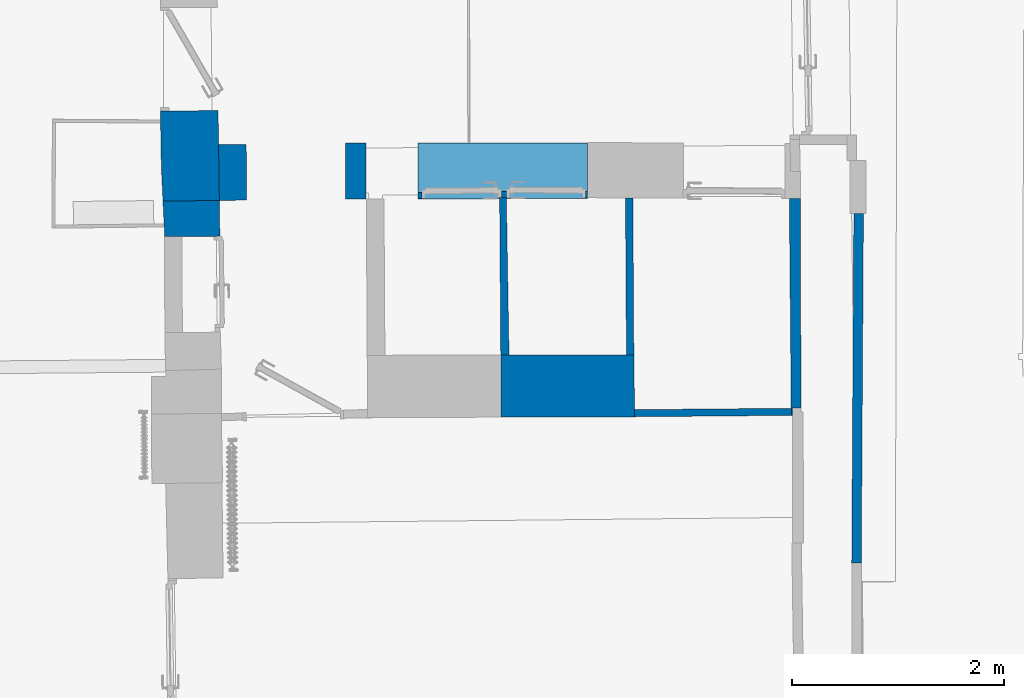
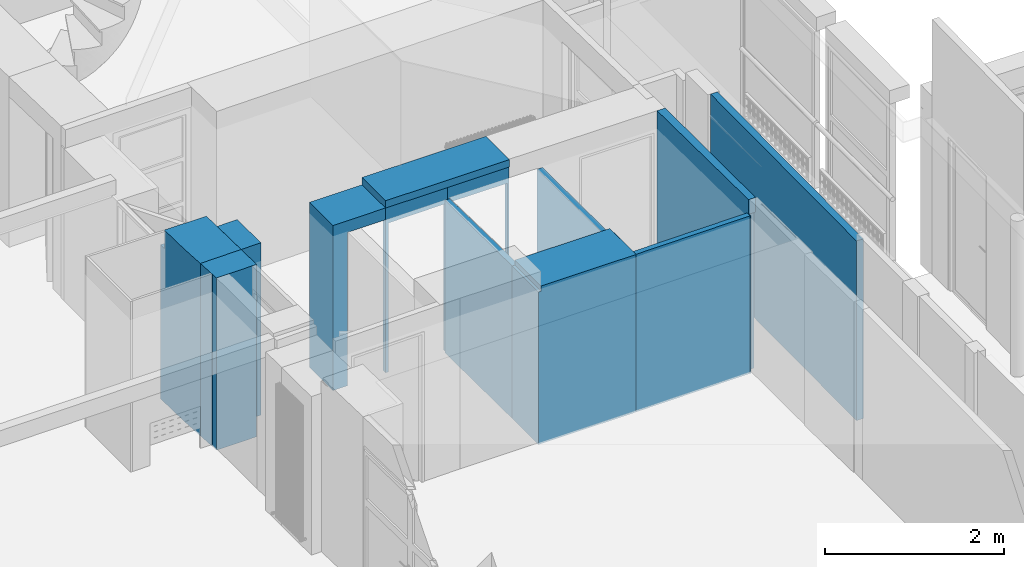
# One storey, part 16 of 72: 13 walls, 2 openings.
"""IFC2X3 building model written with IfcOpenShell, lengths in centimetres."""

import ifcopenshell
import ifcopenshell.guid

model = None  # the IFC model being written
_history = None  # IfcOwnerHistory: only IFC2X3 demands one
_inside = {}  # id of a spatial element -> (the spatial element, [elements in it])
_under = {}  # id of a project, library or spatial element -> (it, [spatial elements below it])
_declared = {}  # id of a project -> (the project, [libraries it declares])
_typed = {}  # id of a type object -> (the type object, [elements of that type])
_made_of = {}  # id of a material, layer set ... -> (it, [elements and type objects made of it])


def new_model(schema):
    """Start an empty IFC model of exactly this schema.

    Asked for "IFC4X3", IfcOpenShell would pick the latest addendum, in which some entities
    have other attributes; the version numbers below select the first issue.
    IFC2X3 requires an IfcOwnerHistory on every rooted entity: one is made here for all.
    """
    global model, _history
    if schema == "IFC4X3":
        model = ifcopenshell.file(schema_version=(4, 3, 0, 0))
    else:
        model = ifcopenshell.file(schema=schema)
    _inside.clear()
    _under.clear()
    _declared.clear()
    _typed.clear()
    _made_of.clear()
    _history = None
    if model.schema == "IFC2X3":
        org = make("IfcOrganization", Name="unknown")
        user = make(
            "IfcPersonAndOrganization",
            ThePerson=make("IfcPerson", FamilyName="unknown"),
            TheOrganization=org,
        )
        app = make(
            "IfcApplication",
            ApplicationDeveloper=org,
            Version="unknown",
            ApplicationFullName="unknown",
            ApplicationIdentifier="unknown",
        )
        _history = make(
            "IfcOwnerHistory",
            OwningUser=user,
            OwningApplication=app,
            ChangeAction="ADDED",
            CreationDate=0,
        )
    return model


def make(cls, **values):
    """One entity of the class cls with the attributes given. An attribute that is None is left unset."""
    return model.create_entity(
        cls, **{name: value for name, value in values.items() if value is not None}
    )


def entity(cls, *values):
    """Any entity or typed value of the class cls, its attributes in the order of the schema. None: left unset."""
    e = model.create_entity(cls)
    for i, value in enumerate(values):
        if value is not None:
            e[i] = value
    return e


def rooted(cls, **values):
    """An entity with a GlobalId (a new one), such as an element, a storey or a relation."""
    return make(cls, GlobalId=ifcopenshell.guid.new(), OwnerHistory=_history, **values)


def si_unit(unit_type, name, prefix=None):
    """IfcSIUnit, for example si_unit("LENGTHUNIT", "METRE", prefix="MILLI")."""
    return make("IfcSIUnit", UnitType=unit_type, Prefix=prefix, Name=name)


def converted_unit(unit_type, name, factor, base, dimensions=None, offset=None):
    """IfcConversionBasedUnit, such as the inch: factor (a typed value) times the base unit."""
    return make(
        "IfcConversionBasedUnit"
        if offset is None
        else "IfcConversionBasedUnitWithOffset",
        ConversionOffset=offset,
        Dimensions=None
        if dimensions is None
        else entity("IfcDimensionalExponents", *dimensions),
        UnitType=unit_type,
        Name=name,
        ConversionFactor=make(
            "IfcMeasureWithUnit", ValueComponent=factor, UnitComponent=base
        ),
    )


def assignment(units):
    """IfcUnitAssignment: the units of a project."""
    return None if units is None else make("IfcUnitAssignment", Units=units)


def point(xyz):
    """IfcCartesianPoint."""
    return None if xyz is None else make("IfcCartesianPoint", Coordinates=xyz)


def direction(xyz):
    """IfcDirection."""
    return None if xyz is None else make("IfcDirection", DirectionRatios=xyz)


def frame(location, z_axis=None, x_axis=None):
    """IfcAxis2Placement3D, a coordinate frame: its origin and axes. An axis left out is left unset."""
    return make(
        "IfcAxis2Placement3D",
        Location=point(location),
        Axis=direction(z_axis),
        RefDirection=direction(x_axis),
    )


def frame_2d(location, x_axis=None):
    """IfcAxis2Placement2D, a coordinate frame in the plane: its origin and x axis."""
    return make(
        "IfcAxis2Placement2D", Location=point(location), RefDirection=direction(x_axis)
    )


def origin():
    """The frame at (0, 0, 0) with its axes left unset."""
    return frame((0.0, 0.0, 0.0))


def origin_with_axes():
    """The frame at (0, 0, 0) with the z axis (0, 0, 1) and the x axis (1, 0, 0) written out."""
    return frame((0.0, 0.0, 0.0), z_axis=(0.0, 0.0, 1.0), x_axis=(1.0, 0.0, 0.0))


def origin_2d_with_axis():
    """The frame at (0, 0) in the plane with the x axis (1, 0) written out."""
    return frame_2d((0.0, 0.0), x_axis=(1.0, 0.0))


def place(relative_to, where):
    """IfcLocalPlacement: puts the frame where relative to a parent placement (None: the world)."""
    return make(
        "IfcLocalPlacement", PlacementRelTo=relative_to, RelativePlacement=where
    )


def context(
    kind, dimensions, precision=None, world=None, true_north=None, identifier=None
):
    """IfcGeometricRepresentationContext, for example the 3D "Model" context."""
    return make(
        "IfcGeometricRepresentationContext",
        ContextIdentifier=identifier,
        ContextType=kind,
        CoordinateSpaceDimension=dimensions,
        Precision=precision,
        WorldCoordinateSystem=world,
        TrueNorth=true_north,
    )


def subcontext(parent, identifier, kind, view, scale=None):
    """IfcGeometricRepresentationSubContext, for example "Body" below "Model"."""
    return make(
        "IfcGeometricRepresentationSubContext",
        ContextIdentifier=identifier,
        ContextType=kind,
        ParentContext=parent,
        TargetScale=scale,
        TargetView=view,
    )


def project(units=None, contexts=None):
    """IfcProject with its units and contexts."""
    return rooted(
        "IfcProject",
        Name="project",
        RepresentationContexts=contexts,
        UnitsInContext=assignment(units),
    )


def spatial(cls, under=None, at=None, **own):
    """A site, building, storey or space (cls), placed at a placement, below another one or the project."""
    s = rooted(cls, ObjectPlacement=at, **own)
    if under is not None:
        _under.setdefault(under.id(), (under, []))[1].append(s)
    return s


def polyline(points):
    """IfcPolyline through the points."""
    return make("IfcPolyline", Points=[point(p) for p in points])


def profile(cls, at=None, kind="AREA", **sizes):
    """A parametric profile (cls). Its sizes go by their IFC names, for example OverallWidth=200.0."""
    return make(cls, ProfileType=kind, Position=at, **sizes)


def rectangle(**sizes):
    """IfcRectangleProfileDef."""
    return profile("IfcRectangleProfileDef", **sizes)


def outline(outer, holes=None, kind="AREA"):
    """IfcArbitraryClosedProfileDef: a profile drawn as a closed curve; with holes, ...WithVoids."""
    if holes is None:
        return make("IfcArbitraryClosedProfileDef", ProfileType=kind, OuterCurve=outer)
    return make(
        "IfcArbitraryProfileDefWithVoids",
        ProfileType=kind,
        OuterCurve=outer,
        InnerCurves=holes,
    )


def extrude(swept, where, along, depth):
    """IfcExtrudedAreaSolid: the profile swept, set in the frame where, extruded along a direction by depth."""
    return make(
        "IfcExtrudedAreaSolid",
        SweptArea=swept,
        Position=where,
        ExtrudedDirection=direction(along),
        Depth=depth,
    )


def clip(a, b, op="DIFFERENCE"):
    """IfcBooleanClippingResult: the solid a cut by the half space b."""
    return make(
        "IfcBooleanClippingResult", Operator=op, FirstOperand=a, SecondOperand=b
    )


def bounded_halfspace(plane, agree, where, boundary):
    """IfcPolygonalBoundedHalfSpace: a half space limited to a polygon's prism."""
    return make(
        "IfcPolygonalBoundedHalfSpace",
        BaseSurface=make("IfcPlane", Position=plane),
        AgreementFlag=agree,
        Position=where,
        PolygonalBoundary=boundary,
    )


def shape(context_of_items, identifier, shape_type, items):
    """IfcShapeRepresentation: the items that make up one representation, for example the "Body"."""
    return make(
        "IfcShapeRepresentation",
        ContextOfItems=context_of_items,
        RepresentationIdentifier=identifier,
        RepresentationType=shape_type,
        Items=items,
    )


def material(Name=None, Category=None):
    """IfcMaterial."""
    return make("IfcMaterial", Name=Name, Category=Category)


def layer(
    of_material, thickness, ventilated=None, Name=None, Category=None, Priority=None
):
    """IfcMaterialLayer: one layer of a wall or slab, of a material (None: an air gap)."""
    return make(
        "IfcMaterialLayer",
        Material=of_material,
        LayerThickness=thickness,
        IsVentilated=ventilated,
        Name=Name,
        Category=Category,
        Priority=Priority,
    )


def layer_set(layers, Name=None):
    """IfcMaterialLayerSet."""
    return make("IfcMaterialLayerSet", MaterialLayers=layers, LayerSetName=Name)


def layer_usage(for_layer_set, set_direction, sense, offset, extent=None):
    """IfcMaterialLayerSetUsage: how a layer set lies in its element."""
    return make(
        "IfcMaterialLayerSetUsage",
        ForLayerSet=for_layer_set,
        LayerSetDirection=set_direction,
        DirectionSense=sense,
        OffsetFromReferenceLine=offset,
        ReferenceExtent=extent,
    )


def made_of(thing, what):
    """Note that an element or type object is made of a material, layer set ...; save() writes the relation."""
    if what is not None:
        _made_of.setdefault(what.id(), (what, []))[1].append(thing)
    return thing


def type_object(cls, material=None, **own):
    """A type object (cls), such as IfcWallType, which elements share."""
    return made_of(rooted(cls, **own), material)


def element(
    cls,
    number,
    at=None,
    inside=None,
    cuts=None,
    type_object=None,
    material=None,
    context=None,
    identifier="Body",
    shape_type=None,
    held_by="IfcProductDefinitionShape",
    body=None,
    shapes=None,
    **own,
):
    """One element of the class cls, such as IfcWall. Its Tag is "e" and its number.

    at: its placement. inside: the storey or other place that contains it. cuts: it is an
    opening in that element (IfcRelVoidsElement). A single representation is given by context,
    identifier, shape_type and body (its items); several are given by shapes. held_by: the class
    of the entity that holds the representations. save() writes the other relations.
    """
    e = rooted(cls, Tag="e%d" % number, ObjectPlacement=at, **own)
    if body is not None:
        shapes = [shape(context, identifier, shape_type, body)]
    if shapes is not None:
        e.Representation = make(held_by, Representations=shapes)
    if inside is not None:
        _inside.setdefault(inside.id(), (inside, []))[1].append(e)
    if cuts is not None:
        rooted(
            "IfcRelVoidsElement", RelatingBuildingElement=cuts, RelatedOpeningElement=e
        )
    if type_object is not None:
        _typed.setdefault(type_object.id(), (type_object, []))[1].append(e)
    return made_of(e, material)


def aggregate(whole, parts):
    """IfcRelAggregates: a whole, such as a stair, and the parts it consists of."""
    return rooted("IfcRelAggregates", RelatingObject=whole, RelatedObjects=parts)


def save(model, path):
    """Write the relations noted so far, then the file.

    IfcRelAggregates (storeys below a building ...), IfcRelContainedInSpatialStructure (elements
    in a storey), IfcRelDefinesByType, IfcRelAssociatesMaterial and IfcRelDeclares: one each for
    every whole, place, type object, material and project.
    """
    for whole, parts in _under.values():
        aggregate(whole, parts)
    for where, things in _inside.values():
        rooted(
            "IfcRelContainedInSpatialStructure",
            RelatedElements=things,
            RelatingStructure=where,
        )
    for kind, things in _typed.values():
        rooted("IfcRelDefinesByType", RelatedObjects=things, RelatingType=kind)
    for what, things in _made_of.values():
        rooted("IfcRelAssociatesMaterial", RelatedObjects=things, RelatingMaterial=what)
    for by, libraries in _declared.values():
        rooted("IfcRelDeclares", RelatingContext=by, RelatedDefinitions=libraries)
    model.write(path)


model = new_model("IFC2X3")

# Units and contexts
model_context = context("Model", 3, precision=0.0001, world=origin(), true_north=direction((0.225632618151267, 0.974212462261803, 0.0)))
body_context = subcontext(model_context, "Body", "Model", "MODEL_VIEW")
footprint_context = subcontext(model_context, "FootPrint", "Model", "MODEL_VIEW")
profile_context = subcontext(model_context, "Profile", "Model", "MODEL_VIEW")
ifc_project = project(units=[si_unit("LENGTHUNIT", "METRE", prefix="CENTI"), si_unit("AREAUNIT", "SQUARE_METRE", prefix="CENTI"), si_unit("VOLUMEUNIT", "CUBIC_METRE", prefix="CENTI"), converted_unit("PLANEANGLEUNIT", "DEGREE", entity("IfcRatioMeasure", 0.0174532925), si_unit("PLANEANGLEUNIT", "RADIAN"), dimensions=[0, 0, 0, 0, 0, 0, 0])], contexts=[model_context])

# Site, building, storey
site_placement = place(None, origin_with_axes())
site = spatial("IfcSite", under=ifc_project, at=site_placement, Name="Default Site", CompositionType="ELEMENT")
building_placement = place(site_placement, origin_with_axes())
building = spatial("IfcBuilding", under=site, at=building_placement, Name="Default Building", CompositionType="ELEMENT")
storey_placement = place(building_placement, frame((0.0, 0.0, 853.910374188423), z_axis=(0.0, 0.0, 1.0), x_axis=(1.0, 0.0, 0.0)))
storey = spatial("IfcBuildingStorey", under=building, at=storey_placement, Name="Niveau 2", CompositionType="ELEMENT", Elevation=853.910374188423)

# Walls
ifc_material = material(Name="<aucun>")
ifc_layer_1 = layer(ifc_material, 9.0)
ifc_layer_set_1 = layer_set([ifc_layer_1], Name="default")
ifc_layer_usage_1 = layer_usage(ifc_layer_set_1, "AXIS2", "POSITIVE", -4.5)
wall_type_1 = type_object("IfcWallType", Name="default 90", PredefinedType="NOTDEFINED", material=ifc_layer_set_1)
wall_1_placement = place(storey_placement, frame((889.968345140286, -423.745401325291, -1.95399252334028e-11), z_axis=(0.0, 0.0, 1.0), x_axis=(0.00615086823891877, 0.999981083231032, 0.0)))
element("IfcWallStandardCase", 1, at=wall_1_placement, inside=storey, type_object=wall_type_1, material=ifc_layer_usage_1, Name="Enveloppe 462984", context=body_context, shape_type="SweptSolid", body=[
    extrude(rectangle(XDim=329.351803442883, YDim=9.00000000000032, at=origin_2d_with_axis()), frame((164.7701142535, 7.105427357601e-13, 1.97175609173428e-11), z_axis=(0.0, 0.0, 1.0), x_axis=(1.0, 2.71744432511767e-15, 0.0)), (0.0, 0.0, 1.0), 245.0),
])
ifc_layer_usage_2 = layer_usage(ifc_layer_set_1, "AXIS2", "POSITIVE", -4.5)
wall_2_placement = place(storey_placement, frame((832.974241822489, -281.527346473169, 1.4210854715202e-12), z_axis=(0.0, 0.0, 1.0), x_axis=(-0.00908710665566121, 0.99995871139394, 0.0)))
element("IfcWallStandardCase", 2, at=wall_2_placement, inside=storey, type_object=wall_type_1, material=ifc_layer_usage_2, Name="Enveloppe 153305", context=body_context, shape_type="Clipping", body=[
    clip(clip(clip(extrude(outline(polyline([(201.304660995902, 4.49999999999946), (-3.07233558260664, 4.49999999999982), (-3.07251622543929, 3.42735435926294), (0.0391609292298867, 3.40643712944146), (0.0391609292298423, -4.50031609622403), (201.161118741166, -6.12371708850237), (201.304660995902, 4.49999999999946)])), frame((0.0, 0.0, -3.5527136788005e-13), z_axis=(0.0, 0.0, 1.0), x_axis=(1.0, 0.0, 0.0)), (0.0, 0.0, 1.0), 234.999999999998), bounded_halfspace(frame((3.70789775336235, -4.52992912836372, 214.999999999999), z_axis=(0.0, 0.0, 1.0), x_axis=(-0.99996742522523, 0.00807146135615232, 0.0)), True, frame((3.70789775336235, -4.52992912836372, 214.999999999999), z_axis=(0.0, 0.0, 1.0), x_axis=(1.0, 0.0, 0.0)), polyline([(-3.66873682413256, 0.0296130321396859), (-3.66873682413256, 7.93636625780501), (-4.44089209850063e-14, 7.91170437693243), (-4.44089209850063e-14, 0.0), (-3.66873682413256, 0.0296130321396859)]))), bounded_halfspace(frame((-4.44089209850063e-14, 3.40670037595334, 214.999999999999), z_axis=(0.0, 0.0, -1.0), x_axis=(-8.05258637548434e-15, 1.0, 0.0)), True, frame((-4.44089209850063e-14, 3.40670037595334, 214.999999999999), z_axis=(0.0, 0.0, 1.0), x_axis=(1.0, 0.0, 0.0)), polyline([(-3.07251622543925, 0.0206539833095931), (-4.44089209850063e-14, -1.77635683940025e-13), (-4.44089209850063e-14, 1.09329962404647), (-3.0723355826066, 1.0932996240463), (-3.07251622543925, 0.0206539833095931)]))), bounded_halfspace(frame((0.0391609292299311, 4.49999999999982, 214.999999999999), z_axis=(0.0, 0.0, -1.0), x_axis=(-1.0, -3.07787823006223e-12, 0.0)), True, frame((0.0391609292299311, 4.49999999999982, 214.999999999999), z_axis=(0.0, 0.0, 1.0), x_axis=(1.0, 0.0, 0.0)), polyline([(-0.0391609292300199, -1.09329962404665), (-1.33226762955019e-13, -1.09356287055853), (-4.44089209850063e-14, 0.0), (-0.0391609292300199, 0.0), (-0.0391609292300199, -1.09329962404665)]))),
])
ifc_layer_2 = layer(ifc_material, 54.0)
ifc_layer_set_2 = layer_set([ifc_layer_2], Name="default")
ifc_layer_usage_3 = layer_usage(ifc_layer_set_2, "AXIS2", "POSITIVE", -27.0)
wall_type_2 = type_object("IfcWallType", Name="default 540", PredefinedType="NOTDEFINED", material=ifc_layer_set_2)
wall_3_placement = place(storey_placement, frame((261.871826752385, -55.997544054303, 1.4210854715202e-12), z_axis=(0.0, 0.0, 1.0), x_axis=(-0.0142343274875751, 0.999898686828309, 0.0)))
element("IfcWallStandardCase", 3, at=wall_3_placement, inside=storey, type_object=wall_type_2, material=ifc_layer_usage_3, Name="Enveloppe 157798", context=body_context, shape_type="Clipping", body=[
    clip(clip(extrude(outline(polyline([(50.319782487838, 27.328018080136), (6.05539079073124, 27.2018835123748), (-26.3640645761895, 26.1210360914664), (-26.3640645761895, -27.0), (58.4365462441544, -27.0), (58.4365462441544, 21.1725672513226), (58.5219537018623, 27.1720642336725), (50.3189867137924, 27.2888397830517), (50.319782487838, 27.328018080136)])), origin_with_axes(), (0.0, 0.0, 1.0), 234.999999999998), bounded_halfspace(frame((58.5220289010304, 27.1719582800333, 209.999999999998), z_axis=(0.0, 0.0, -1.0), x_axis=(-0.999898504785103, 0.0142471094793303, 0.0)), True, frame((58.5220289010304, 27.1719582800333, 209.999999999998), z_axis=(0.0, 0.0, 1.0), x_axis=(1.0, 0.0, 0.0)), polyline([(-9.30573558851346, -54.1719582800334), (-0.0854826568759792, -54.1719582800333), (-0.0854826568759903, -5.9993910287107), (-1.11022302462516e-14, 0.0), (-8.20304218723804, 0.116881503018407), (-9.30573558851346, -54.1719582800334)]))), bounded_halfspace(frame((50.319782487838, 27.328018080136, 209.999999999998), z_axis=(0.0, 0.0, -1.0), x_axis=(-1.0, 2.48082804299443e-14, 0.0)), True, frame((50.319782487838, 27.328018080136, 209.999999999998), z_axis=(0.0, 0.0, 1.0), x_axis=(1.0, 0.0, 0.0)), polyline([(-3.00061877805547, 1.77635683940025e-13), (-0.00123742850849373, -0.0609222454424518), (-1.11022302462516e-14, 0.0), (-3.00061877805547, 1.77635683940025e-13)]))),
])
ifc_layer_3 = layer(ifc_material, 58.5635131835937)
ifc_layer_set_3 = layer_set([ifc_layer_3], Name="default")
ifc_layer_usage_4 = layer_usage(ifc_layer_set_3, "AXIS2", "POSITIVE", -29.282)
wall_type_3 = type_object("IfcWallType", Name="default 585.635131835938", PredefinedType="NOTDEFINED", material=ifc_layer_set_3)
wall_4_placement = place(storey_placement, frame((557.948774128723, -257.09682599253, 1.4210854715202e-12), z_axis=(0.0, 0.0, 1.0), x_axis=(0.999999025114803, 0.00139634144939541, 0.0)))
element("IfcWallStandardCase", 4, at=wall_4_placement, inside=storey, type_object=wall_type_3, material=ifc_layer_usage_4, Name="Enveloppe 153306", context=body_context, shape_type="Clipping", body=[
    clip(clip(clip(clip(clip(extrude(outline(polyline([(-3.32275121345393, 29.2817573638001), (-3.32275121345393, -29.2817573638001), (122.71791931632, -29.2817568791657), (122.718266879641, -29.032847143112), (122.757546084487, -29.0329019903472), (122.718266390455, -22.3527752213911), (122.718266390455, 29.2817573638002), (-3.32275121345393, 29.2817573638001)])), frame((0.0, 0.0, -3.5527136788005e-13), z_axis=(0.0, 0.0, 1.0), x_axis=(1.0, 0.0, 0.0)), (0.0, 0.0, 1.0), 214.999999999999), bounded_halfspace(frame((122.11254303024, 29.2817573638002, 208.999999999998), z_axis=(0.0, 0.0, 1.0), x_axis=(1.0, -1.00123902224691e-14, 0.0)), True, frame((122.11254303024, 29.2817573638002, 208.999999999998), z_axis=(0.0, 0.0, 1.0), x_axis=(1.0, 0.0, 0.0)), polyline([(8.88178419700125e-14, -4.44089209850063e-14), (0.605723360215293, 4.44089209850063e-14), (0.605723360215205, -51.6345325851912), (0.594751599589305, -51.6346151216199), (8.88178419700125e-14, -4.44089209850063e-14)]))), bounded_halfspace(frame((122.718266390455, -29.2817573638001, 208.999999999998), z_axis=(0.0, 0.0, 1.0), x_axis=(-1.0, 3.16587034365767e-16, 0.0)), True, frame((122.718266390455, -29.2817573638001, 208.999999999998), z_axis=(0.0, 0.0, 1.0), x_axis=(1.0, 0.0, 0.0)), polyline([(-3.64327670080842, -4.44089209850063e-14), (-3.64418696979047, 0.22114604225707), (0.0, 0.248559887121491), (8.88178419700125e-14, -4.44089209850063e-14), (-3.64327670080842, -4.44089209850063e-14)]))), bounded_halfspace(frame((122.707294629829, -22.3528577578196, 208.999999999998), z_axis=(0.0, 0.0, 1.0), x_axis=(0.999971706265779, 0.00752241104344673, 0.0)), True, frame((122.707294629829, -22.3528577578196, 208.999999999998), z_axis=(0.0, 0.0, 1.0), x_axis=(1.0, 0.0, 0.0)), polyline([(0.0, -4.44089209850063e-14), (0.0109717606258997, 8.25364285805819e-05), (0.0109717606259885, -1.45850198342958), (0.0, -4.44089209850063e-14)]))), bounded_halfspace(frame((-3.32275121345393, -29.2817573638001, 208.0), z_axis=(0.0, 0.0, -1.0), x_axis=(1.0, 1.15077218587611e-15, 0.0)), True, frame((-3.32275121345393, -29.2817573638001, 208.0), z_axis=(0.0, 0.0, 1.0), x_axis=(1.0, 0.0, 0.0)), polyline([(0.0, -4.44089209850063e-14), (3.32275121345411, -4.44089209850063e-14), (3.32275121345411, 58.5635147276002), (8.88178419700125e-14, 58.5635147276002), (0.0, -4.44089209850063e-14)]))), bounded_halfspace(frame((122.718266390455, -23.8113597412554, 208.999999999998), z_axis=(0.0, 0.0, -1.0), x_axis=(-9.83176214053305e-15, -1.0, 0.0)), True, frame((122.718266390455, -23.8113597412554, 208.999999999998), z_axis=(0.0, 0.0, 1.0), x_axis=(1.0, 0.0, 0.0)), polyline([(-8.88178419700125e-14, -5.22183773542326), (0.0392796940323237, -5.2215422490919), (8.88178419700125e-14, -4.44089209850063e-14), (-8.88178419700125e-14, -5.22183773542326)]))),
])
ifc_layer_4 = layer(ifc_material, 52.0)
ifc_layer_set_4 = layer_set([ifc_layer_4], Name="default")
ifc_layer_usage_5 = layer_usage(ifc_layer_set_4, "AXIS2", "POSITIVE", -26.0)
wall_type_4 = type_object("IfcWallType", Name="default 520", PredefinedType="NOTDEFINED", material=ifc_layer_set_4)
wall_5_placement = place(storey_placement, frame((263.725627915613, -115.966190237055, 1.4210854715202e-12), z_axis=(0.0, 0.0, 1.0), x_axis=(-0.0142343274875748, 0.999898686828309, 0.0)))
element("IfcWallStandardCase", 5, at=wall_5_placement, inside=storey, type_object=wall_type_4, material=ifc_layer_usage_5, Name="Enveloppe 157808", context=body_context, shape_type="SweptSolid", body=[
    extrude(outline(polyline([(33.62489360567, 27.1210360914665), (12.3550340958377, 26.4119102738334), (9.35504477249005, 26.4199140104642), (9.3540848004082, 26.0600938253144), (0.140603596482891, 26.1632716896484), (-0.0441613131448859, 9.66430620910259), (-0.130410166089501, -25.2335434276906), (2.22044604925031e-14, -25.2338657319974), (2.22044604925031e-14, -25.9999999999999), (33.62489360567, -26.0), (33.62489360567, 27.1210360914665)])), frame((0.0, 0.0, -3.5527136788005e-13), z_axis=(0.0, 0.0, 1.0), x_axis=(1.0, 0.0, 0.0)), (0.0, 0.0, 1.0), 234.999999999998),
])

# Wall, opening
ifc_layer_5 = layer(ifc_material, 5.7)
ifc_layer_set_5 = layer_set([ifc_layer_5], Name="default")
ifc_layer_usage_6 = layer_usage(ifc_layer_set_5, "AXIS2", "POSITIVE", -2.85)
wall_type_5 = type_object("IfcWallType", Name="default 57", PredefinedType="NOTDEFINED", material=ifc_layer_set_5)
wall_6_placement = place(storey_placement, frame((636.834167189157, -76.5822387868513, 1.4210854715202e-12), z_axis=(0.0, 0.0, 1.0), x_axis=(-0.999990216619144, 0.00442342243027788, 0.0)))
wall_6 = element("IfcWallStandardCase", 6, at=wall_6_placement, inside=storey, type_object=wall_type_5, material=ifc_layer_usage_6, Name="Enveloppe 151435", context=body_context, shape_type="Clipping", body=[
    clip(clip(clip(extrude(outline(polyline([(80.2300691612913, -2.58890353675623), (80.1089123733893, -2.59044965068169), (80.108912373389, 2.85000000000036), (0.634958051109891, 2.85000000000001), (0.634958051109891, -2.85000000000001), (80.2319346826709, -2.84999999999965), (80.2300691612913, -2.58890353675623)])), frame((0.0, 0.0, 1.77635683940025e-13), z_axis=(0.0, 0.0, 1.0), x_axis=(1.0, 0.0, 0.0)), (0.0, 0.0, 1.0), 224.999999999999), bounded_halfspace(frame((76.9218536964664, 2.85000000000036, 208.0), z_axis=(0.0, 0.0, 1.0), x_axis=(1.0, -1.57721925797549e-13, 0.0)), True, frame((76.9218536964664, 2.85000000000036, 208.0), z_axis=(0.0, 0.0, 1.0), x_axis=(1.0, 0.0, 0.0)), polyline([(1.77635683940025e-13, -5.48596664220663), (0.0, 0.0), (3.18705867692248, -1.11022302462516e-14), (3.18705867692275, -5.44044965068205), (1.77635683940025e-13, -5.48596664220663)]))), bounded_halfspace(frame((80.2113819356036, -2.58898619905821, 208.0), z_axis=(0.0, 0.0, -1.0), x_axis=(0.00714284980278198, -0.999974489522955, 0.0)), True, frame((80.2113819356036, -2.58898619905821, 208.0), z_axis=(0.0, 0.0, 1.0), x_axis=(1.0, 0.0, 0.0)), polyline([(0.00186442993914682, -0.261013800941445), (0.0205527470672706, -0.261013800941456), (0.0186864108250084, 0.000266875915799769), (0.0, -1.11022302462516e-14), (0.00186442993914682, -0.261013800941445)]))), bounded_halfspace(frame((80.108912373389, -2.84999999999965, 208.0), z_axis=(0.0, 0.0, -1.0), x_axis=(1.0, -3.99229260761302e-14, 0.0)), True, frame((80.108912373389, -2.84999999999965, 208.0), z_axis=(0.0, 0.0, 1.0), x_axis=(1.0, 0.0, 0.0)), polyline([(0.0, -1.11022302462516e-14), (0.104333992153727, 0.0), (0.10246956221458, 0.261013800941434), (1.77635683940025e-13, 0.25955034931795), (0.0, -1.11022302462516e-14)]))),
])
opening_1_placement = place(wall_6_placement, frame((2.33296886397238, -1.4210854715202e-14, 1.79412040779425e-13), z_axis=(0.0, 0.0, 1.0), x_axis=(-1.0, -4.54410814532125e-15, 0.0)))
cartesian_point_1 = entity("IfcCartesianPoint", [-8.88178419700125e-14, -1.11022302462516e-14, 203.0])
cartesian_point_2 = entity("IfcCartesianPoint", [-74.691474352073, -2.85000000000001])
element("IfcOpeningElement", 7, at=opening_1_placement, cuts=wall_6, Name="4294966405_11", ObjectType="Opening", shapes=[
    shape(body_context, "Body", "SweptSolid", [extrude(outline(polyline([(1.77635683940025e-13, 203.0), (8.88178419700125e-14, 0.0), (74.691474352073, 0.0), (74.691474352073, 203.0), (1.77635683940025e-13, 203.0)])), frame((0.0, -12.85, 0.0), z_axis=(0.0, 1.0, 0.0), x_axis=(-1.0, 0.0, 0.0)), (0.0, 0.0, 1.0), 25.7)]),
    shape(profile_context, "Profile", "GeometricCurveSet", [entity("IfcGeometricCurveSet", [entity("IfcPolyline", [cartesian_point_1, entity("IfcCartesianPoint", [0.0, -1.11022302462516e-14, 0.0]), entity("IfcCartesianPoint", [-74.691474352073, 0.0, 0.0]), entity("IfcCartesianPoint", [-74.691474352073, 0.0, 203.0]), cartesian_point_1])])]),
    shape(footprint_context, "FootPrint", "GeometricCurveSet", [entity("IfcGeometricCurveSet", [entity("IfcPolyline", [cartesian_point_2, entity("IfcCartesianPoint", [-8.88178419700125e-14, -2.85000000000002]), entity("IfcCartesianPoint", [-8.88178419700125e-14, 2.84999999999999]), entity("IfcCartesianPoint", [-74.691474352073, 2.85]), cartesian_point_2])])]),
])

ifc_layer_usage_7 = layer_usage(ifc_layer_set_5, "AXIS2", "POSITIVE", -2.85)
wall_7_placement = place(storey_placement, frame((476.397916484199, -77.2795632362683, 1.4210854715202e-12), z_axis=(0.0, 0.0, 1.0), x_axis=(0.999951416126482, 0.00985725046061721, 0.0)))
wall_7 = element("IfcWallStandardCase", 8, at=wall_7_placement, inside=storey, type_object=wall_type_5, material=ifc_layer_usage_7, Name="Enveloppe 151102", context=body_context, shape_type="Clipping", body=[
    clip(clip(clip(extrude(outline(polyline([(0.0510622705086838, 2.85), (0.051062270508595, -2.84999999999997), (83.3800772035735, -2.84999999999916), (83.3806309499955, -2.6339792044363), (83.4806251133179, -2.63496491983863), (83.5589623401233, 2.85000000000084), (80.371578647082, 2.85000000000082), (80.3741416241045, 3.10999669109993), (80.2709617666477, 3.11101381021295), (80.2690986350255, 2.8500000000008), (0.0510622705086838, 2.85)])), frame((0.0, 0.0, -1.77635683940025e-13), z_axis=(0.0, 0.0, 1.0), x_axis=(1.0, 0.0, 0.0)), (0.0, 0.0, 1.0), 224.999999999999), bounded_halfspace(frame((80.2709617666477, 3.11101381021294, 208.0), z_axis=(0.0, 0.0, 1.0), x_axis=(0.999898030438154, -0.0142803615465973, 0.0)), True, frame((80.2709617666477, 3.11101381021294, 208.0), z_axis=(0.0, 0.0, 1.0), x_axis=(1.0, 0.0, 0.0)), polyline([(-0.001863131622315, -0.261013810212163), (0.0, 0.0), (0.104323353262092, -0.00148992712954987), (0.100616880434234, -0.26101381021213), (-0.001863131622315, -0.261013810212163)]))), bounded_halfspace(frame((83.4806207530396, -2.63540724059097, 208.0), z_axis=(0.0, 0.0, -1.0), x_axis=(0.0142803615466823, 0.999898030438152, 0.0)), True, frame((83.4806207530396, -2.63540724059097, 208.0), z_axis=(0.0, 0.0, 1.0), x_axis=(1.0, 0.0, 0.0)), polyline([(-3.18673369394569, 0.0455123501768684), (0.0, 0.0), (0.0783415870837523, 5.48540724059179), (-3.10904210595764, 5.48540724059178), (-3.18673369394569, 0.0455123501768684)]))), bounded_halfspace(frame((80.2302748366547, -2.58898639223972, 208.0), z_axis=(0.0, 0.0, -1.0), x_axis=(-0.00713787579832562, -0.999974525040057, 0.0)), True, frame((80.2302748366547, -2.58898639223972, 208.0), z_axis=(0.0, 0.0, 1.0), x_axis=(1.0, 0.0, 0.0)), polyline([(-0.00186313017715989, -0.261013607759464), (3.14980236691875, -0.261013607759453), (3.15035611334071, -0.044992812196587), (0.0, 0.0), (-0.00186313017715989, -0.261013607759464)]))),
])
opening_2_placement = place(wall_7_placement, frame((3.91603575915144, 4.2632564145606e-14, 3.5527136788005e-13), z_axis=(0.0, 0.0, 1.0), x_axis=(1.0, 9.78384040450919e-15, 0.0)))
cartesian_point_3 = entity("IfcCartesianPoint", [0.0, -1.11022302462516e-14, 203.0])
cartesian_point_4 = entity("IfcCartesianPoint", [74.7527323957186, 2.84999999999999])
element("IfcOpeningElement", 9, at=opening_2_placement, cuts=wall_7, Name="4294966403_11", ObjectType="Opening", shapes=[
    shape(body_context, "Body", "SweptSolid", [extrude(outline(polyline([(8.88178419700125e-14, 203.0), (8.88178419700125e-14, 0.0), (74.7527323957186, 0.0), (74.7527323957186, 203.0), (8.88178419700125e-14, 203.0)])), frame((0.0, 12.85, 0.0), z_axis=(0.0, -1.0, 0.0), x_axis=(1.0, 0.0, 0.0)), (0.0, 0.0, 1.0), 25.7)]),
    shape(profile_context, "Profile", "GeometricCurveSet", [entity("IfcGeometricCurveSet", [entity("IfcPolyline", [cartesian_point_3, entity("IfcCartesianPoint", [0.0, -1.11022302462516e-14, 0.0]), entity("IfcCartesianPoint", [74.7527323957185, -2.22044604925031e-14, 0.0]), entity("IfcCartesianPoint", [74.7527323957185, -2.22044604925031e-14, 203.0]), cartesian_point_3])])]),
    shape(footprint_context, "FootPrint", "GeometricCurveSet", [entity("IfcGeometricCurveSet", [entity("IfcPolyline", [cartesian_point_4, entity("IfcCartesianPoint", [8.88178419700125e-14, 2.84999999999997]), entity("IfcCartesianPoint", [0.0, -2.85000000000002]), entity("IfcCartesianPoint", [74.7527323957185, -2.85000000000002]), cartesian_point_4])])]),
])

# Walls
ifc_layer_6 = layer(ifc_material, 6.3)
ifc_layer_set_6 = layer_set([ifc_layer_6], Name="default")
ifc_layer_usage_8 = layer_usage(ifc_layer_set_6, "AXIS2", "POSITIVE", -3.15)
wall_type_6 = type_object("IfcWallType", Name="default 63", PredefinedType="NOTDEFINED", material=ifc_layer_set_6)
wall_8_placement = place(storey_placement, frame((557.738251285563, -228.234955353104, 1.4210854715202e-12), z_axis=(0.0, 0.0, 1.0), x_axis=(-0.00729395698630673, 0.999973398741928, 0.0)))
element("IfcWallStandardCase", 10, at=wall_8_placement, inside=storey, type_object=wall_type_6, material=ifc_layer_usage_8, Name="Enveloppe 151230", context=body_context, shape_type="SweptSolid", body=[
    extrude(outline(polyline([(148.892264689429, 3.15000000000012), (0.438206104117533, 3.14999999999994), (0.392525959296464, -4.5953536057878), (148.908414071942, -3.14999999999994), (148.892264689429, 3.15000000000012)])), frame((0.0, 0.0, -3.5527136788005e-13), z_axis=(0.0, 0.0, 1.0), x_axis=(1.0, 0.0, 0.0)), (0.0, 0.0, 1.0), 208.000000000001),
])
ifc_layer_7 = layer(ifc_material, 52.5)
ifc_layer_set_7 = layer_set([ifc_layer_7], Name="default")
ifc_layer_usage_9 = layer_usage(ifc_layer_set_7, "AXIS2", "POSITIVE", -26.25)
wall_type_7 = type_object("IfcWallType", Name="default 525", PredefinedType="NOTDEFINED", material=ifc_layer_set_7)
wall_9_placement = place(storey_placement, frame((476.402710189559, -54.2226256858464, 225.0), z_axis=(0.0, 0.0, 1.0), x_axis=(0.99999959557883, 0.000899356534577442, 0.0)))
element("IfcWallStandardCase", 11, at=wall_9_placement, inside=storey, type_object=wall_type_7, material=ifc_layer_usage_9, Name="Enveloppe 153307", context=body_context, shape_type="SweptSolid", body=[
    extrude(rectangle(XDim=159.896409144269, YDim=52.4999997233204, at=origin_2d_with_axis()), frame((79.9480502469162, 9.99200722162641e-14, 7.105427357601e-13), z_axis=(0.0, 0.0, 1.0), x_axis=(1.0, -1.73604084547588e-09, 0.0)), (0.0, 0.0, 1.0), 9.99999999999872),
])
ifc_layer_usage_10 = layer_usage(ifc_layer_set_7, "AXIS2", "POSITIVE", -26.25)
wall_10_placement = place(storey_placement, frame((288.739097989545, -55.7283161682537, 1.4210854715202e-12), z_axis=(0.0, 0.0, 1.0), x_axis=(0.999951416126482, 0.00985725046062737, 0.0)))
element("IfcWallStandardCase", 12, at=wall_10_placement, inside=storey, type_object=wall_type_7, material=ifc_layer_usage_10, Name="Enveloppe 150479", context=body_context, shape_type="SweptSolid", body=[
    extrude(outline(polyline([(0.0167123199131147, 26.25), (0.246527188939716, -26.25), (26.0637164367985, -26.25), (26.0637164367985, 26.25), (0.0167123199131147, 26.25)])), frame((0.0, 0.0, -3.5527136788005e-13), z_axis=(0.0, 0.0, 1.0), x_axis=(1.0, 0.0, 0.0)), (0.0, 0.0, 1.0), 234.999999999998),
])
ifc_layer_usage_11 = layer_usage(ifc_layer_set_7, "AXIS2", "POSITIVE", -26.25)
wall_11_placement = place(storey_placement, frame((408.363959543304, -54.2838168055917, 1.4210854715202e-12), z_axis=(0.0, 0.0, 1.0), x_axis=(0.99999959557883, 0.000899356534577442, 0.0)))
element("IfcWallStandardCase", 13, at=wall_11_placement, inside=storey, type_object=wall_type_7, material=ifc_layer_usage_11, Name="Enveloppe 150662", context=body_context, shape_type="Clipping", body=[
    clip(clip(clip(clip(clip(extrude(outline(polyline([(27.6055778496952, 26.25), (-8.88178419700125e-14, 26.25), (0.0, -26.25), (27.6055795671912, -26.2480903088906), (29.7289758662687, -26.25), (68.0898383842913, -25.9063521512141), (68.0387781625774, -20.2065808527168), (68.0387781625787, 26.2500000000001), (27.6055778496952, 26.25)])), frame((0.0, 0.0, -8.88178419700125e-13), z_axis=(0.0, 0.0, 1.0), x_axis=(1.0, 0.0, 0.0)), (0.0, 0.0, 1.0), 225.0), bounded_halfspace(frame((19.1454179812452, 17.7534192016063, 208.999999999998), z_axis=(0.0, 0.0, 1.0), x_axis=(-1.65947984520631e-15, 1.0, 0.0)), True, frame((19.1454179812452, 17.7534192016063, 208.999999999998), z_axis=(0.0, 0.0, 1.0), x_axis=(1.0, 0.0, 0.0)), polyline([(-8.88178419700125e-14, -44.0034192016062), (0.0, 8.49658079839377), (8.46015986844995, 8.49658079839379), (0.263855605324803, -44.0034192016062), (-8.88178419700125e-14, -44.0034192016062)]))), bounded_halfspace(frame((27.6055778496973, -26.25, 208.999999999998), z_axis=(0.0, 0.0, 1.0), x_axis=(-1.0, 3.74049749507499e-17, 0.0)), True, frame((27.6055778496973, -26.25, 208.999999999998), z_axis=(0.0, 0.0, 1.0), x_axis=(1.0, 0.0, 0.0)), polyline([(-8.19630426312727, -1.11022302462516e-14), (-1.77635683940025e-13, 51.6683457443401), (0.0, -1.11022302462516e-14), (-8.19630426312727, -1.11022302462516e-14)]))), bounded_halfspace(frame((19.40927358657, -26.25, 208.999999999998), z_axis=(0.0, 0.0, 1.0), x_axis=(0.154251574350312, 0.988031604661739, 0.0)), True, frame((19.40927358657, -26.25, 208.999999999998), z_axis=(0.0, 0.0, 1.0), x_axis=(1.0, 0.0, 0.0)), polyline([(0.0, -1.11022302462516e-14), (8.19630426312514, 52.5), (8.1963042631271, 51.6683457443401), (0.0, -1.11022302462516e-14)]))), bounded_halfspace(frame((27.6055778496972, 25.4183457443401, 208.999999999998), z_axis=(0.0, 0.0, 1.0), x_axis=(5.01651671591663e-14, 1.0, 0.0)), True, frame((27.6055778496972, 25.4183457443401, 208.999999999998), z_axis=(0.0, 0.0, 1.0), x_axis=(1.0, 0.0, 0.0)), polyline([(1.77635683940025e-13, -51.6683457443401), (8.88178419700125e-14, 0.831654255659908), (40.4332003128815, 0.83165425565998), (40.4332003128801, -51.3251553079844), (2.12339801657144, -51.6683457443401), (1.77635683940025e-13, -51.6683457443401)]))), bounded_halfspace(frame((68.0898383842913, -25.9063521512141, 208.999999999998), z_axis=(0.0, 0.0, 1.0), x_axis=(-0.999959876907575, -0.00895793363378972, 0.0)), True, frame((68.0898383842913, -25.9063521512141, 208.999999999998), z_axis=(0.0, 0.0, 1.0), x_axis=(1.0, 0.0, 0.0)), polyline([(-0.05106022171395, -0.000457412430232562), (-0.05106022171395, 5.69977129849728), (0.0, -1.11022302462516e-14), (-0.05106022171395, -0.000457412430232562)]))),
])
ifc_layer_8 = layer(ifc_material, 6.93186492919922)
ifc_layer_set_8 = layer_set([ifc_layer_8], Name="default")
ifc_layer_usage_12 = layer_usage(ifc_layer_set_8, "AXIS2", "POSITIVE", -3.466)
wall_type_8 = type_object("IfcWallType", Name="default 69.3186492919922", PredefinedType="NOTDEFINED", material=ifc_layer_set_8)
wall_12_placement = place(storey_placement, frame((676.556420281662, -227.98270154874, 1.4210854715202e-12), z_axis=(0.0, 0.0, 1.0), x_axis=(-0.0062390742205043, 0.999980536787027, 0.0)))
element("IfcWallStandardCase", 14, at=wall_12_placement, inside=storey, type_object=wall_type_8, material=ifc_layer_usage_12, Name="Enveloppe 150609", context=body_context, shape_type="SweptSolid", body=[
    extrude(outline(polyline([(148.418665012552, 3.46593260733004), (0.350066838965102, 3.46593260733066), (0.316497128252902, -3.46593260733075), (148.344750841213, -3.46593260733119), (148.418665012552, 3.46593260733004)])), frame((0.0, 0.0, -3.5527136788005e-13), z_axis=(0.0, 0.0, 1.0), x_axis=(1.0, 0.0, 0.0)), (0.0, 0.0, 1.0), 208.999999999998),
])
ifc_layer_9 = layer(ifc_material, 6.68023300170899)
ifc_layer_set_9 = layer_set([ifc_layer_9], Name="default")
ifc_layer_usage_13 = layer_usage(ifc_layer_set_9, "AXIS2", "POSITIVE", -3.34)
wall_type_9 = type_object("IfcWallType", Name="default 66.8023300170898", PredefinedType="NOTDEFINED", material=ifc_layer_set_9)
wall_13_placement = place(storey_placement, frame((680.716950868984, -282.618304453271, 1.4210854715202e-12), z_axis=(0.0, 0.0, 1.0), x_axis=(0.999960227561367, 0.00891870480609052, 0.0)))
element("IfcWallStandardCase", 15, at=wall_13_placement, inside=storey, type_object=wall_type_9, material=ifc_layer_usage_13, Name="Enveloppe 150635", context=body_context, shape_type="Clipping", body=[
    clip(clip(clip(clip(extrude(outline(polyline([(0.399388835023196, 54.9732588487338), (0.0109720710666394, 3.3401166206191), (8.72754757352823e-07, 3.34021447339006), (-0.0414963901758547, -3.58852675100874), (0.0574723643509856, -3.58940945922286), (0.0596958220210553, -3.34011662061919), (147.7614827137, -3.34011662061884), (147.760357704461, 3.34011662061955), (0.0615192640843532, 3.34011662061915), (0.449932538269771, 54.9728080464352), (0.399388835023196, 54.9732588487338)])), origin_with_axes(), (0.0, 0.0, 1.0), 214.999999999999), bounded_halfspace(frame((0.0615192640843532, 3.34011662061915, 208.999999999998), z_axis=(0.0, 0.0, 1.0), x_axis=(-1.0, -6.74165584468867e-13, 0.0)), True, frame((0.0615192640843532, 3.34011662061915, 208.999999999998), z_axis=(0.0, 0.0, 1.0), x_axis=(1.0, 0.0, 0.0)), polyline([(-0.0505471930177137, -8.88178419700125e-14), (0.337868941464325, 51.633071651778), (0.388413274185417, 51.6326914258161), (0.0, 0.0), (-0.0505471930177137, -8.88178419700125e-14)]))), bounded_halfspace(frame((0.0588465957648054, -3.58942171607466, 208.999999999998), z_axis=(0.0, 0.0, 1.0), x_axis=(-0.999971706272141, 0.00752241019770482, 0.0)), True, frame((0.0588465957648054, -3.58942171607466, 208.999999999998), z_axis=(0.0, 0.0, 1.0), x_axis=(1.0, 0.0, 0.0)), polyline([(-0.0999971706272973, 0.000752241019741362), (-0.0981274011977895, 0.249305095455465), (0.000849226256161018, 0.249305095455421), (0.0, -4.44089209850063e-14), (-0.0999971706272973, 0.000752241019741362)]))), bounded_halfspace(frame((0.0, -3.34011662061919, 208.999999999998), z_axis=(0.0, 0.0, 1.0), x_axis=(-1.0, 1.61282445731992e-13, 0.0)), True, frame((0.0, -3.34011662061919, 208.999999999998), z_axis=(0.0, 0.0, 1.0), x_axis=(1.0, 0.0, 0.0)), polyline([(-0.0392808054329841, 0.0), (0.0, 5.2216899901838), (0.0, 0.0), (-0.0392808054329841, 0.0)]))), bounded_halfspace(frame((0.0, 1.88157336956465, 208.999999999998), z_axis=(0.0, 0.0, -1.0), x_axis=(0.00752241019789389, 0.99997170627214, 0.0)), True, frame((0.0, 1.88157336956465, 208.999999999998), z_axis=(0.0, 0.0, 1.0), x_axis=(1.0, 0.0, 0.0)), polyline([(0.0, 0.0), (0.0109720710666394, 1.45854325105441), (0.0, 1.45854325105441), (0.0, 0.0)]))),
])

save(model, "model.ifc")
